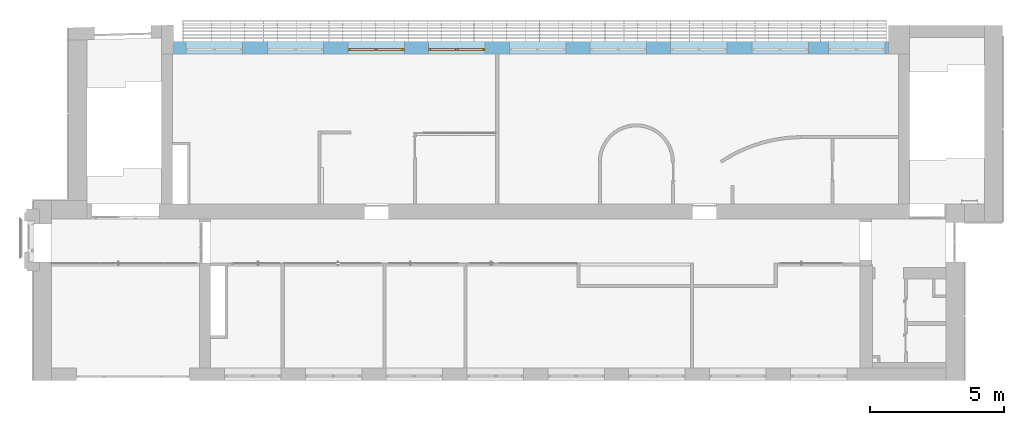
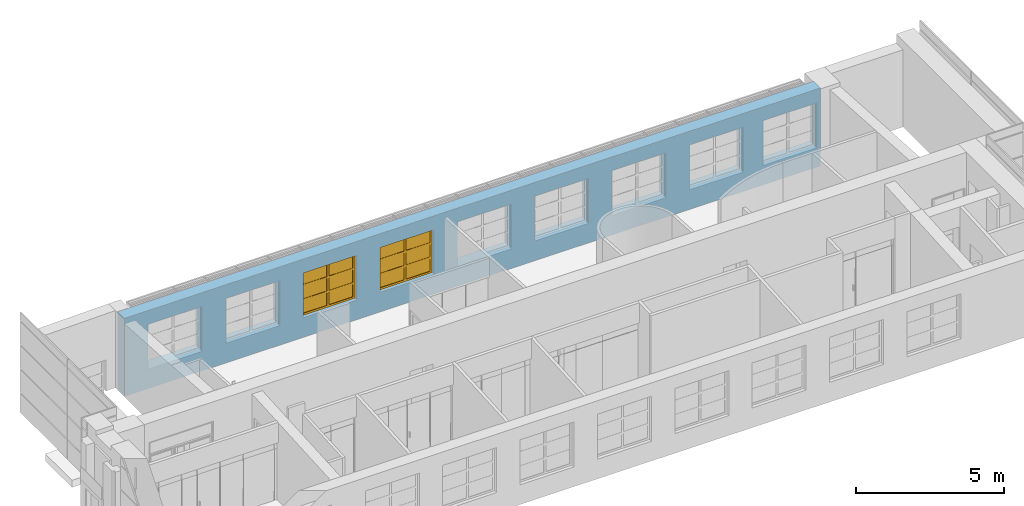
# One storey, part 35 of 46: 2 windows, 9 openings, plus 1 element that does not belong to this part.
"""IFC2X3 building model written with IfcOpenShell, lengths in millimetres."""

from ifc_helpers import new_model, entity, si_unit, converted_unit, derived_unit, direction, frame, frame_2d, origin, origin_2d_with_axis, place, context, subcontext, project, spatial, rectangle, extrude, face_set, surface_model, source, transform, mapped, material, material_list, layer, layer_set, layer_usage, type_object, type_shapes, element, fill, save


model = new_model("IFC2X3")

# Units and contexts
model_context = context("Model", 3, precision=0.01, world=origin(), true_north=direction((6.12303176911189e-17, 1.0)))
body_context = subcontext(model_context, "Body", "Model", "MODEL_VIEW")
ifc_project = project(units=[si_unit("LENGTHUNIT", "METRE", prefix="MILLI"), si_unit("AREAUNIT", "SQUARE_METRE"), si_unit("VOLUMEUNIT", "CUBIC_METRE"), converted_unit("PLANEANGLEUNIT", "DEGREE", entity("IfcRatioMeasure", 0.0174532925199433), si_unit("PLANEANGLEUNIT", "RADIAN"), dimensions=[0, 0, 0, 0, 0, 0, 0]), si_unit("MASSUNIT", "GRAM", prefix="KILO"), derived_unit("MASSDENSITYUNIT", [(si_unit("MASSUNIT", "GRAM", prefix="KILO"), 1), (si_unit("LENGTHUNIT", "METRE"), -3)]), si_unit("TIMEUNIT", "SECOND"), si_unit("FREQUENCYUNIT", "HERTZ"), si_unit("THERMODYNAMICTEMPERATUREUNIT", "DEGREE_CELSIUS"), derived_unit("THERMALTRANSMITTANCEUNIT", [(si_unit("MASSUNIT", "GRAM", prefix="KILO"), 1), (si_unit("THERMODYNAMICTEMPERATUREUNIT", "KELVIN"), -1), (si_unit("TIMEUNIT", "SECOND"), -3)]), derived_unit("VOLUMETRICFLOWRATEUNIT", [(si_unit("LENGTHUNIT", "METRE"), 3), (si_unit("TIMEUNIT", "SECOND"), -1)]), si_unit("ELECTRICCURRENTUNIT", "AMPERE"), si_unit("ELECTRICVOLTAGEUNIT", "VOLT"), si_unit("POWERUNIT", "WATT"), si_unit("FORCEUNIT", "NEWTON", prefix="KILO"), si_unit("ILLUMINANCEUNIT", "LUX"), si_unit("LUMINOUSFLUXUNIT", "LUMEN"), si_unit("LUMINOUSINTENSITYUNIT", "CANDELA"), derived_unit("USERDEFINED", [(si_unit("MASSUNIT", "GRAM", prefix="KILO"), -1), (si_unit("LENGTHUNIT", "METRE"), -2), (si_unit("TIMEUNIT", "SECOND"), 3), (si_unit("LUMINOUSFLUXUNIT", "LUMEN"), 1)]), derived_unit("LINEARVELOCITYUNIT", [(si_unit("LENGTHUNIT", "METRE"), 1), (si_unit("TIMEUNIT", "SECOND"), -1)]), si_unit("PRESSUREUNIT", "PASCAL"), derived_unit("USERDEFINED", [(si_unit("LENGTHUNIT", "METRE"), -2), (si_unit("MASSUNIT", "GRAM", prefix="KILO"), 1), (si_unit("TIMEUNIT", "SECOND"), -2)])], contexts=[model_context])

# Site, building, storey
site_placement = place(None, frame((-151.875543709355, 2715.0, 0.0)))
site = spatial("IfcSite", under=ifc_project, at=site_placement, Name="Surface", CompositionType="ELEMENT")
building_placement = place(site_placement, origin())
building = spatial("IfcBuilding", under=site, at=building_placement, CompositionType="ELEMENT")
storey_placement = place(building_placement, frame((0.0, 0.0, 10060.0)))
storey = spatial("IfcBuildingStorey", under=building, at=storey_placement, Name="4 korrus", CompositionType="ELEMENT", Elevation=10060.0000000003)

# Wall, openings, windows
ifc_material_1 = material(Name="Brick, Common")
ifc_layer_1 = layer(ifc_material_1, 440.0)
ifc_material_2 = material(Name="__Kips GN13_tava")
ifc_layer_2 = layer(ifc_material_2, 20.0)
ifc_layer_set = layer_set([ifc_layer_1, ifc_layer_2], Name="Basic Wall:VS-1")
ifc_layer_usage = layer_usage(ifc_layer_set, "AXIS2", "POSITIVE", -230.0)
wall_type = type_object("IfcWallType", Name="Basic Wall:VS-1", PredefinedType="STANDARD", material=ifc_layer_set)
wall_placement = place(storey_placement, frame((31602.6162682, 12380.0, 0.0), z_axis=(0.0, 0.0, 1.0), x_axis=(-1.0, 0.0, 0.0)))
wall = element("IfcWallStandardCase", 1, at=wall_placement, inside=storey, type_object=wall_type, material=ifc_layer_usage, Name="SEIN - 005", ObjectType="Basic Wall:VS-1", context=body_context, shape_type="SweptSolid", body=[
    extrude(rectangle(XDim=27061.7433388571, YDim=459.999999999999, at=frame_2d((13530.8716694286, 0.0), x_axis=(-1.0, 0.0))), origin(), (0.0, 0.0, 1.0), 3209.74134984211),
])
opening_1_placement = place(wall_placement, frame((31602.6162682, 12380.0, 0.0), z_axis=(0.0, 0.0, 1.0), x_axis=(-1.0, 0.0, 0.0)))
element("IfcOpeningElement", 2, at=opening_1_placement, cuts=wall, Name="SEIN - 005", ObjectType="Opening", context=body_context, shape_type="SweptSolid", body=[
    extrude(rectangle(XDim=1850.0, YDim=2100.0, at=frame_2d((0.0, -5.6843418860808e-13), x_axis=(1.0, 0.0))), frame((6512.84935535, 13077.9, 1725.0), z_axis=(0.0, -1.0, 0.0), x_axis=(0.0, 0.0, 1.0)), (0.0, 0.0, 1.0), 1393.8),
])
opening_2_placement = place(wall_placement, frame((31602.6162682, 12380.0, 0.0), z_axis=(0.0, 0.0, 1.0), x_axis=(-1.0, 0.0, 0.0)))
element("IfcOpeningElement", 3, at=opening_2_placement, cuts=wall, Name="SEIN - 005", ObjectType="Opening", context=body_context, shape_type="SweptSolid", body=[
    extrude(rectangle(XDim=1850.0, YDim=2100.0, at=frame_2d((0.0, -1.02318153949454e-12), x_axis=(1.0, 0.0))), frame((9532.84935535, 13077.9, 1725.0), z_axis=(0.0, -1.0, 0.0), x_axis=(0.0, 0.0, 1.0)), (0.0, 0.0, 1.0), 1393.8),
])
opening_3_placement = place(wall_placement, frame((31602.6162682, 12380.0, 0.0), z_axis=(0.0, 0.0, 1.0), x_axis=(-1.0, 0.0, 0.0)))
opening_3 = element("IfcOpeningElement", 4, at=opening_3_placement, cuts=wall, Name="SEIN - 005", ObjectType="Opening", context=body_context, shape_type="SweptSolid", body=[
    extrude(rectangle(XDim=1850.0, YDim=2100.0, at=origin_2d_with_axis()), frame((12532.84935535, 13077.9, 1725.0), z_axis=(0.0, -1.0, 0.0), x_axis=(0.0, 0.0, 1.0)), (0.0, 0.0, 1.0), 1393.8),
])
opening_4_placement = place(wall_placement, frame((31602.6162682, 12380.0, 0.0), z_axis=(0.0, 0.0, 1.0), x_axis=(-1.0, 0.0, 0.0)))
opening_4 = element("IfcOpeningElement", 5, at=opening_4_placement, cuts=wall, Name="SEIN - 005", ObjectType="Opening", context=body_context, shape_type="SweptSolid", body=[
    extrude(rectangle(XDim=1850.0, YDim=2100.0, at=origin_2d_with_axis()), frame((15532.84935531, 13077.9, 1725.0), z_axis=(0.0, -1.0, 0.0), x_axis=(0.0, 0.0, 1.0)), (0.0, 0.0, 1.0), 1393.8),
])
opening_5_placement = place(wall_placement, frame((31602.6162682, 12380.0, 0.0), z_axis=(0.0, 0.0, 1.0), x_axis=(-1.0, 0.0, 0.0)))
element("IfcOpeningElement", 6, at=opening_5_placement, cuts=wall, Name="SEIN - 005", ObjectType="Opening", context=body_context, shape_type="SweptSolid", body=[
    extrude(rectangle(XDim=1850.0, YDim=2100.0, at=origin_2d_with_axis()), frame((18542.84935531, 13077.9, 1725.0), z_axis=(0.0, -1.0, 0.0), x_axis=(0.0, 0.0, 1.0)), (0.0, 0.0, 1.0), 1393.8),
])
opening_6_placement = place(wall_placement, frame((31602.6162682, 12380.0, 0.0), z_axis=(0.0, 0.0, 1.0), x_axis=(-1.0, 0.0, 0.0)))
element("IfcOpeningElement", 7, at=opening_6_placement, cuts=wall, Name="SEIN - 005", ObjectType="Opening", context=body_context, shape_type="SweptSolid", body=[
    extrude(rectangle(XDim=1850.0, YDim=2100.0, at=origin_2d_with_axis()), frame((21543.05309771, 13077.9, 1725.0), z_axis=(0.0, -1.0, 0.0), x_axis=(0.0, 0.0, 1.0)), (0.0, 0.0, 1.0), 1393.8),
])
opening_7_placement = place(wall_placement, frame((31602.6162682, 12380.0, 0.0), z_axis=(0.0, 0.0, 1.0), x_axis=(-1.0, 0.0, 0.0)))
element("IfcOpeningElement", 8, at=opening_7_placement, cuts=wall, Name="SEIN - 005", ObjectType="Opening", context=body_context, shape_type="SweptSolid", body=[
    extrude(rectangle(XDim=1850.0, YDim=2100.0, at=origin_2d_with_axis()), frame((24543.05309771, 13077.9, 1725.0), z_axis=(0.0, -1.0, 0.0), x_axis=(0.0, 0.0, 1.0)), (0.0, 0.0, 1.0), 1393.8),
])
opening_8_placement = place(wall_placement, frame((31602.6162682, 12380.0, 0.0), z_axis=(0.0, 0.0, 1.0), x_axis=(-1.0, 0.0, 0.0)))
element("IfcOpeningElement", 9, at=opening_8_placement, cuts=wall, Name="SEIN - 005", ObjectType="Opening", context=body_context, shape_type="SweptSolid", body=[
    extrude(rectangle(XDim=1850.0, YDim=2100.0, at=frame_2d((0.0, 4.32009983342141e-12), x_axis=(1.0, 0.0))), frame((27563.05309771, 13077.9, 1725.0), z_axis=(0.0, -1.0, 0.0), x_axis=(0.0, 0.0, 1.0)), (0.0, 0.0, 1.0), 1393.8),
])
opening_9_placement = place(wall_placement, frame((31602.6162682, 12380.0, 0.0), z_axis=(0.0, 0.0, 1.0), x_axis=(-1.0, 0.0, 0.0)))
element("IfcOpeningElement", 10, at=opening_9_placement, cuts=wall, Name="SEIN - 005", ObjectType="Opening", context=body_context, shape_type="SweptSolid", body=[
    extrude(rectangle(XDim=1850.0, YDim=2100.0, at=origin_2d_with_axis()), frame((30412.57293081, 13077.9, 1725.0), z_axis=(0.0, -1.0, 0.0), x_axis=(0.0, 0.0, 1.0)), (0.0, 0.0, 1.0), 1393.8),
])
ifc_material_3 = material(Name="Paint - Titanium White")
ifc_material_4 = material(Name="Paint - Dark Gray")
ifc_material_5 = material(Name="Glass - Clear Fast")
ifc_material_list_1 = material_list([ifc_material_3, ifc_material_4, ifc_material_5])
ifc_material_list_2 = material_list([ifc_material_3, ifc_material_4, ifc_material_5])
window_style = type_object("IfcWindowStyle", Name="Aken_1850x2100", ConstructionType="NOTDEFINED", OperationType="DOUBLE_PANEL_VERTICAL", ParameterTakesPrecedence=False, Sizeable=False, material=ifc_material_list_2)
shared_shape = source(origin(), body_context, "Body", "SurfaceModel", [
    surface_model("IfcFaceBasedSurfaceModel", [(80.0, -665.9, 1770.0), (80.0, -620.9, 1770.0), (0.0, -620.9, 1770.0), (0.0, -665.9, 1770.0), (80.0, -665.9, 80.0), (80.0, -620.9, 80.0), (80.0, -620.9, 1770.0), (80.0, -665.9, 1770.0), (80.0, -620.9, 1770.0), (80.0, -620.9, 80.0), (0.0, -620.9, 80.0), (0.0, -620.9, 1770.0), (0.0, -665.9, 1770.0), (0.0, -620.9, 1770.0), (0.0, -620.9, 80.0), (0.0, -665.9, 80.0), (80.0, -665.9, 1770.0), (0.0, -665.9, 1770.0), (0.0, -665.9, 80.0), (80.0, -665.9, 80.0), (0.0, -665.9, 80.0), (0.0, -620.9, 80.0), (80.0, -620.9, 80.0), (80.0, -665.9, 80.0), (2020.0, -665.9, 80.0), (2020.0, -620.9, 80.0), (2100.0, -620.9, 80.0), (2100.0, -665.9, 80.0), (2020.0, -665.9, 1770.0), (2020.0, -620.9, 1770.0), (2020.0, -620.9, 80.0), (2020.0, -665.9, 80.0), (2020.0, -620.9, 80.0), (2020.0, -620.9, 1770.0), (2100.0, -620.9, 1770.0), (2100.0, -620.9, 80.0), (2100.0, -665.9, 80.0), (2100.0, -620.9, 80.0), (2100.0, -620.9, 1770.0), (2100.0, -665.9, 1770.0), (2020.0, -665.9, 80.0), (2100.0, -665.9, 80.0), (2100.0, -665.9, 1770.0), (2020.0, -665.9, 1770.0), (2100.0, -665.9, 1770.0), (2100.0, -620.9, 1770.0), (2020.0, -620.9, 1770.0), (2020.0, -665.9, 1770.0), (1010.0, -665.9, 80.0), (1010.0, -620.9, 80.0), (1090.0, -620.9, 80.0), (1090.0, -665.9, 80.0), (1010.0, -665.9, 1770.0), (1010.0, -620.9, 1770.0), (1010.0, -620.9, 80.0), (1010.0, -665.9, 80.0), (1010.0, -620.9, 80.0), (1010.0, -620.9, 1770.0), (1090.0, -620.9, 1770.0), (1090.0, -620.9, 80.0), (1090.0, -665.9, 80.0), (1090.0, -620.9, 80.0), (1090.0, -620.9, 1770.0), (1090.0, -665.9, 1770.0), (1010.0, -665.9, 80.0), (1090.0, -665.9, 80.0), (1090.0, -665.9, 1770.0), (1010.0, -665.9, 1770.0), (1090.0, -665.9, 1770.0), (1090.0, -620.9, 1770.0), (1010.0, -620.9, 1770.0), (1010.0, -665.9, 1770.0), (80.0, -665.9, 80.0), (80.0, -620.9, 80.0), (0.0, -620.9, 80.0), (0.0, -665.9, 80.0), (1010.0, -665.9, 80.0), (1010.0, -620.9, 80.0), (80.0, -620.9, 80.0), (80.0, -665.9, 80.0), (80.0, -620.9, 80.0), (1010.0, -620.9, 80.0), (1090.0, -620.9, 80.0), (2020.0, -620.9, 80.0), (2100.0, -620.9, 80.0), (2100.0, -620.9, 0.0), (0.0, -620.9, 0.0), (0.0, -620.9, 80.0), (0.0, -665.9, 80.0), (0.0, -620.9, 80.0), (0.0, -620.9, 0.0), (0.0, -665.9, 0.0), (80.0, -665.9, 80.0), (0.0, -665.9, 80.0), (0.0, -665.9, 0.0), (2100.0, -665.9, 0.0), (2100.0, -665.9, 80.0), (2020.0, -665.9, 80.0), (1090.0, -665.9, 80.0), (1010.0, -665.9, 80.0), (1090.0, -665.9, 80.0), (1090.0, -620.9, 80.0), (1010.0, -620.9, 80.0), (1010.0, -665.9, 80.0), (2020.0, -665.9, 80.0), (2020.0, -620.9, 80.0), (1090.0, -620.9, 80.0), (1090.0, -665.9, 80.0), (2100.0, -665.9, 80.0), (2100.0, -620.9, 80.0), (2020.0, -620.9, 80.0), (2020.0, -665.9, 80.0), (2100.0, -665.9, 0.0), (2100.0, -620.9, 0.0), (2100.0, -620.9, 80.0), (2100.0, -665.9, 80.0), (0.0, -665.9, 0.0), (0.0, -620.9, 0.0), (2100.0, -620.9, 0.0), (2100.0, -665.9, 0.0), (1010.0, -665.9, 1770.0), (1010.0, -620.9, 1770.0), (1090.0, -620.9, 1770.0), (1090.0, -665.9, 1770.0), (80.0, -665.9, 1770.0), (80.0, -620.9, 1770.0), (1010.0, -620.9, 1770.0), (1010.0, -665.9, 1770.0), (1010.0, -620.9, 1770.0), (80.0, -620.9, 1770.0), (0.0, -620.9, 1770.0), (0.0, -620.9, 1850.0), (2100.0, -620.9, 1850.0), (2100.0, -620.9, 1770.0), (2020.0, -620.9, 1770.0), (1090.0, -620.9, 1770.0), (1090.0, -665.9, 1770.0), (1090.0, -620.9, 1770.0), (2020.0, -620.9, 1770.0), (2020.0, -665.9, 1770.0), (1010.0, -665.9, 1770.0), (1090.0, -665.9, 1770.0), (2020.0, -665.9, 1770.0), (2100.0, -665.9, 1770.0), (2100.0, -665.9, 1850.0), (0.0, -665.9, 1850.0), (0.0, -665.9, 1770.0), (80.0, -665.9, 1770.0), (0.0, -665.9, 1770.0), (0.0, -620.9, 1770.0), (80.0, -620.9, 1770.0), (80.0, -665.9, 1770.0), (0.0, -665.9, 1850.0), (0.0, -620.9, 1850.0), (0.0, -620.9, 1770.0), (0.0, -665.9, 1770.0), (2100.0, -665.9, 1850.0), (2100.0, -620.9, 1850.0), (0.0, -620.9, 1850.0), (0.0, -665.9, 1850.0), (2100.0, -665.9, 1770.0), (2100.0, -620.9, 1770.0), (2100.0, -620.9, 1850.0), (2100.0, -665.9, 1850.0), (2020.0, -665.9, 1770.0), (2020.0, -620.9, 1770.0), (2100.0, -620.9, 1770.0), (2100.0, -665.9, 1770.0), (80.0, -640.9, 590.0), (80.0, -630.9, 590.0), (1010.0, -630.9, 590.0), (1010.0, -640.9, 590.0), (80.0, -640.9, 670.0), (80.0, -630.9, 670.0), (80.0, -630.9, 590.0), (80.0, -640.9, 590.0), (80.0, -630.9, 590.0), (80.0, -630.9, 670.0), (1010.0, -630.9, 670.0), (1010.0, -630.9, 590.0), (1010.0, -640.9, 590.0), (1010.0, -630.9, 590.0), (1010.0, -630.9, 670.0), (1010.0, -640.9, 670.0), (80.0, -640.9, 590.0), (1010.0, -640.9, 590.0), (1010.0, -640.9, 670.0), (80.0, -640.9, 670.0), (1010.0, -640.9, 670.0), (1010.0, -630.9, 670.0), (80.0, -630.9, 670.0), (80.0, -640.9, 670.0), (80.0, -640.9, 1180.0), (80.0, -630.9, 1180.0), (1010.0, -630.9, 1180.0), (1010.0, -640.9, 1180.0), (80.0, -640.9, 1260.0), (80.0, -630.9, 1260.0), (80.0, -630.9, 1180.0), (80.0, -640.9, 1180.0), (80.0, -630.9, 1180.0), (80.0, -630.9, 1260.0), (1010.0, -630.9, 1260.0), (1010.0, -630.9, 1180.0), (1010.0, -640.9, 1180.0), (1010.0, -630.9, 1180.0), (1010.0, -630.9, 1260.0), (1010.0, -640.9, 1260.0), (80.0, -640.9, 1180.0), (1010.0, -640.9, 1180.0), (1010.0, -640.9, 1260.0), (80.0, -640.9, 1260.0), (1010.0, -640.9, 1260.0), (1010.0, -630.9, 1260.0), (80.0, -630.9, 1260.0), (80.0, -640.9, 1260.0), (1090.0, -640.9, 590.0), (1090.0, -630.9, 590.0), (2020.0, -630.9, 590.0), (2020.0, -640.9, 590.0), (1090.0, -640.9, 670.0), (1090.0, -630.9, 670.0), (1090.0, -630.9, 590.0), (1090.0, -640.9, 590.0), (1090.0, -630.9, 590.0), (1090.0, -630.9, 670.0), (2020.0, -630.9, 670.0), (2020.0, -630.9, 590.0), (2020.0, -640.9, 590.0), (2020.0, -630.9, 590.0), (2020.0, -630.9, 670.0), (2020.0, -640.9, 670.0), (1090.0, -640.9, 590.0), (2020.0, -640.9, 590.0), (2020.0, -640.9, 670.0), (1090.0, -640.9, 670.0), (2020.0, -640.9, 670.0), (2020.0, -630.9, 670.0), (1090.0, -630.9, 670.0), (1090.0, -640.9, 670.0), (1090.0, -640.9, 1180.0), (1090.0, -630.9, 1180.0), (2020.0, -630.9, 1180.0), (2020.0, -640.9, 1180.0), (1090.0, -640.9, 1260.0), (1090.0, -630.9, 1260.0), (1090.0, -630.9, 1180.0), (1090.0, -640.9, 1180.0), (1090.0, -630.9, 1180.0), (1090.0, -630.9, 1260.0), (2020.0, -630.9, 1260.0), (2020.0, -630.9, 1180.0), (2020.0, -640.9, 1180.0), (2020.0, -630.9, 1180.0), (2020.0, -630.9, 1260.0), (2020.0, -640.9, 1260.0), (1090.0, -640.9, 1180.0), (2020.0, -640.9, 1180.0), (2020.0, -640.9, 1260.0), (1090.0, -640.9, 1260.0), (2020.0, -640.9, 1260.0), (2020.0, -630.9, 1260.0), (1090.0, -630.9, 1260.0), (1090.0, -640.9, 1260.0)], [face_set([[[0, 1, 2, 3]]]), face_set([[[4, 5, 6, 7]]]), face_set([[[8, 9, 10, 11]]]), face_set([[[12, 13, 14, 15]]]), face_set([[[16, 17, 18, 19]]]), face_set([[[20, 21, 22, 23]]]), face_set([[[24, 25, 26, 27]]]), face_set([[[28, 29, 30, 31]]]), face_set([[[32, 33, 34, 35]]]), face_set([[[36, 37, 38, 39]]]), face_set([[[40, 41, 42, 43]]]), face_set([[[44, 45, 46, 47]]]), face_set([[[48, 49, 50, 51]]]), face_set([[[52, 53, 54, 55]]]), face_set([[[56, 57, 58, 59]]]), face_set([[[60, 61, 62, 63]]]), face_set([[[64, 65, 66, 67]]]), face_set([[[68, 69, 70, 71]]]), face_set([[[72, 73, 74, 75]]]), face_set([[[76, 77, 78, 79]]]), face_set([[[80, 81, 82, 83, 84, 85, 86, 87]]]), face_set([[[88, 89, 90, 91]]]), face_set([[[92, 93, 94, 95, 96, 97, 98, 99]]]), face_set([[[100, 101, 102, 103]]]), face_set([[[104, 105, 106, 107]]]), face_set([[[108, 109, 110, 111]]]), face_set([[[112, 113, 114, 115]]]), face_set([[[116, 117, 118, 119]]]), face_set([[[120, 121, 122, 123]]]), face_set([[[124, 125, 126, 127]]]), face_set([[[128, 129, 130, 131, 132, 133, 134, 135]]]), face_set([[[136, 137, 138, 139]]]), face_set([[[140, 141, 142, 143, 144, 145, 146, 147]]]), face_set([[[148, 149, 150, 151]]]), face_set([[[152, 153, 154, 155]]]), face_set([[[156, 157, 158, 159]]]), face_set([[[160, 161, 162, 163]]]), face_set([[[164, 165, 166, 167]]]), face_set([[[168, 169, 170, 171]]]), face_set([[[172, 173, 174, 175]]]), face_set([[[176, 177, 178, 179]]]), face_set([[[180, 181, 182, 183]]]), face_set([[[184, 185, 186, 187]]]), face_set([[[188, 189, 190, 191]]]), face_set([[[192, 193, 194, 195]]]), face_set([[[196, 197, 198, 199]]]), face_set([[[200, 201, 202, 203]]]), face_set([[[204, 205, 206, 207]]]), face_set([[[208, 209, 210, 211]]]), face_set([[[212, 213, 214, 215]]]), face_set([[[216, 217, 218, 219]]]), face_set([[[220, 221, 222, 223]]]), face_set([[[224, 225, 226, 227]]]), face_set([[[228, 229, 230, 231]]]), face_set([[[232, 233, 234, 235]]]), face_set([[[236, 237, 238, 239]]]), face_set([[[240, 241, 242, 243]]]), face_set([[[244, 245, 246, 247]]]), face_set([[[248, 249, 250, 251]]]), face_set([[[252, 253, 254, 255]]]), face_set([[[256, 257, 258, 259]]]), face_set([[[260, 261, 262, 263]]])]),
    surface_model("IfcFaceBasedSurfaceModel", [(80.0, -620.9, 1770.0), (80.0, -595.9, 1770.0), (0.0, -595.9, 1770.0), (0.0, -620.9, 1770.0), (80.0, -620.9, 80.0), (80.0, -595.9, 80.0), (80.0, -595.9, 1770.0), (80.0, -620.9, 1770.0), (80.0, -595.9, 1770.0), (80.0, -595.9, 80.0), (0.0, -595.9, 80.0), (0.0, -595.9, 1770.0), (0.0, -620.9, 1770.0), (0.0, -595.9, 1770.0), (0.0, -595.9, 80.0), (0.0, -620.9, 80.0), (80.0, -620.9, 1770.0), (0.0, -620.9, 1770.0), (0.0, -620.9, 80.0), (80.0, -620.9, 80.0), (0.0, -620.9, 80.0), (0.0, -595.9, 80.0), (80.0, -595.9, 80.0), (80.0, -620.9, 80.0), (2020.0, -620.9, 80.0), (2020.0, -595.9, 80.0), (2100.0, -595.9, 80.0), (2100.0, -620.9, 80.0), (2020.0, -620.9, 1770.0), (2020.0, -595.9, 1770.0), (2020.0, -595.9, 80.0), (2020.0, -620.9, 80.0), (2020.0, -595.9, 80.0), (2020.0, -595.9, 1770.0), (2100.0, -595.9, 1770.0), (2100.0, -595.9, 80.0), (2100.0, -620.9, 80.0), (2100.0, -595.9, 80.0), (2100.0, -595.9, 1770.0), (2100.0, -620.9, 1770.0), (2020.0, -620.9, 80.0), (2100.0, -620.9, 80.0), (2100.0, -620.9, 1770.0), (2020.0, -620.9, 1770.0), (2100.0, -620.9, 1770.0), (2100.0, -595.9, 1770.0), (2020.0, -595.9, 1770.0), (2020.0, -620.9, 1770.0), (1010.0, -620.9, 80.0), (1010.0, -595.9, 80.0), (1090.0, -595.9, 80.0), (1090.0, -620.9, 80.0), (1010.0, -620.9, 1770.0), (1010.0, -595.9, 1770.0), (1010.0, -595.9, 80.0), (1010.0, -620.9, 80.0), (1010.0, -595.9, 80.0), (1010.0, -595.9, 1770.0), (1090.0, -595.9, 1770.0), (1090.0, -595.9, 80.0), (1090.0, -620.9, 80.0), (1090.0, -595.9, 80.0), (1090.0, -595.9, 1770.0), (1090.0, -620.9, 1770.0), (1010.0, -620.9, 80.0), (1090.0, -620.9, 80.0), (1090.0, -620.9, 1770.0), (1010.0, -620.9, 1770.0), (1090.0, -620.9, 1770.0), (1090.0, -595.9, 1770.0), (1010.0, -595.9, 1770.0), (1010.0, -620.9, 1770.0), (80.0, -620.9, 80.0), (80.0, -595.9, 80.0), (0.0, -595.9, 80.0), (0.0, -620.9, 80.0), (1010.0, -620.9, 80.0), (1010.0, -595.9, 80.0), (80.0, -595.9, 80.0), (80.0, -620.9, 80.0), (80.0, -595.9, 80.0), (1010.0, -595.9, 80.0), (1090.0, -595.9, 80.0), (2020.0, -595.9, 80.0), (2100.0, -595.9, 80.0), (2100.0, -595.9, 0.0), (0.0, -595.9, 0.0), (0.0, -595.9, 80.0), (0.0, -620.9, 80.0), (0.0, -595.9, 80.0), (0.0, -595.9, 0.0), (0.0, -620.9, 0.0), (80.0, -620.9, 80.0), (0.0, -620.9, 80.0), (0.0, -620.9, 0.0), (2100.0, -620.9, 0.0), (2100.0, -620.9, 80.0), (2020.0, -620.9, 80.0), (1090.0, -620.9, 80.0), (1010.0, -620.9, 80.0), (1090.0, -620.9, 80.0), (1090.0, -595.9, 80.0), (1010.0, -595.9, 80.0), (1010.0, -620.9, 80.0), (2020.0, -620.9, 80.0), (2020.0, -595.9, 80.0), (1090.0, -595.9, 80.0), (1090.0, -620.9, 80.0), (2100.0, -620.9, 80.0), (2100.0, -595.9, 80.0), (2020.0, -595.9, 80.0), (2020.0, -620.9, 80.0), (2100.0, -620.9, 0.0), (2100.0, -595.9, 0.0), (2100.0, -595.9, 80.0), (2100.0, -620.9, 80.0), (0.0, -620.9, 0.0), (0.0, -595.9, 0.0), (2100.0, -595.9, 0.0), (2100.0, -620.9, 0.0), (1010.0, -620.9, 1770.0), (1010.0, -595.9, 1770.0), (1090.0, -595.9, 1770.0), (1090.0, -620.9, 1770.0), (80.0, -620.9, 1770.0), (80.0, -595.9, 1770.0), (1010.0, -595.9, 1770.0), (1010.0, -620.9, 1770.0), (1010.0, -595.9, 1770.0), (80.0, -595.9, 1770.0), (0.0, -595.9, 1770.0), (0.0, -595.9, 1850.0), (2100.0, -595.9, 1850.0), (2100.0, -595.9, 1770.0), (2020.0, -595.9, 1770.0), (1090.0, -595.9, 1770.0), (1090.0, -620.9, 1770.0), (1090.0, -595.9, 1770.0), (2020.0, -595.9, 1770.0), (2020.0, -620.9, 1770.0), (1010.0, -620.9, 1770.0), (1090.0, -620.9, 1770.0), (2020.0, -620.9, 1770.0), (2100.0, -620.9, 1770.0), (2100.0, -620.9, 1850.0), (0.0, -620.9, 1850.0), (0.0, -620.9, 1770.0), (80.0, -620.9, 1770.0), (0.0, -620.9, 1770.0), (0.0, -595.9, 1770.0), (80.0, -595.9, 1770.0), (80.0, -620.9, 1770.0), (0.0, -620.9, 1850.0), (0.0, -595.9, 1850.0), (0.0, -595.9, 1770.0), (0.0, -620.9, 1770.0), (2100.0, -620.9, 1850.0), (2100.0, -595.9, 1850.0), (0.0, -595.9, 1850.0), (0.0, -620.9, 1850.0), (2100.0, -620.9, 1770.0), (2100.0, -595.9, 1770.0), (2100.0, -595.9, 1850.0), (2100.0, -620.9, 1850.0), (2020.0, -620.9, 1770.0), (2020.0, -595.9, 1770.0), (2100.0, -595.9, 1770.0), (2100.0, -620.9, 1770.0), (80.0, -630.9, 590.0), (80.0, -600.9, 590.0), (1010.0, -600.9, 590.0), (1010.0, -630.9, 590.0), (80.0, -630.9, 670.0), (80.0, -600.9, 670.0), (80.0, -600.9, 590.0), (80.0, -630.9, 590.0), (80.0, -600.9, 590.0), (80.0, -600.9, 670.0), (1010.0, -600.9, 670.0), (1010.0, -600.9, 590.0), (1010.0, -630.9, 590.0), (1010.0, -600.9, 590.0), (1010.0, -600.9, 670.0), (1010.0, -630.9, 670.0), (80.0, -630.9, 590.0), (1010.0, -630.9, 590.0), (1010.0, -630.9, 670.0), (80.0, -630.9, 670.0), (1010.0, -630.9, 670.0), (1010.0, -600.9, 670.0), (80.0, -600.9, 670.0), (80.0, -630.9, 670.0), (80.0, -630.9, 1180.0), (80.0, -600.9, 1180.0), (1010.0, -600.9, 1180.0), (1010.0, -630.9, 1180.0), (80.0, -630.9, 1260.0), (80.0, -600.9, 1260.0), (80.0, -600.9, 1180.0), (80.0, -630.9, 1180.0), (80.0, -600.9, 1180.0), (80.0, -600.9, 1260.0), (1010.0, -600.9, 1260.0), (1010.0, -600.9, 1180.0), (1010.0, -630.9, 1180.0), (1010.0, -600.9, 1180.0), (1010.0, -600.9, 1260.0), (1010.0, -630.9, 1260.0), (80.0, -630.9, 1180.0), (1010.0, -630.9, 1180.0), (1010.0, -630.9, 1260.0), (80.0, -630.9, 1260.0), (1010.0, -630.9, 1260.0), (1010.0, -600.9, 1260.0), (80.0, -600.9, 1260.0), (80.0, -630.9, 1260.0), (1090.0, -630.9, 590.0), (1090.0, -600.9, 590.0), (2020.0, -600.9, 590.0), (2020.0, -630.9, 590.0), (1090.0, -630.9, 670.0), (1090.0, -600.9, 670.0), (1090.0, -600.9, 590.0), (1090.0, -630.9, 590.0), (1090.0, -600.9, 590.0), (1090.0, -600.9, 670.0), (2020.0, -600.9, 670.0), (2020.0, -600.9, 590.0), (2020.0, -630.9, 590.0), (2020.0, -600.9, 590.0), (2020.0, -600.9, 670.0), (2020.0, -630.9, 670.0), (1090.0, -630.9, 590.0), (2020.0, -630.9, 590.0), (2020.0, -630.9, 670.0), (1090.0, -630.9, 670.0), (2020.0, -630.9, 670.0), (2020.0, -600.9, 670.0), (1090.0, -600.9, 670.0), (1090.0, -630.9, 670.0), (1090.0, -630.9, 1180.0), (1090.0, -600.9, 1180.0), (2020.0, -600.9, 1180.0), (2020.0, -630.9, 1180.0), (1090.0, -630.9, 1260.0), (1090.0, -600.9, 1260.0), (1090.0, -600.9, 1180.0), (1090.0, -630.9, 1180.0), (1090.0, -600.9, 1180.0), (1090.0, -600.9, 1260.0), (2020.0, -600.9, 1260.0), (2020.0, -600.9, 1180.0), (2020.0, -630.9, 1180.0), (2020.0, -600.9, 1180.0), (2020.0, -600.9, 1260.0), (2020.0, -630.9, 1260.0), (1090.0, -630.9, 1180.0), (2020.0, -630.9, 1180.0), (2020.0, -630.9, 1260.0), (1090.0, -630.9, 1260.0), (2020.0, -630.9, 1260.0), (2020.0, -600.9, 1260.0), (1090.0, -600.9, 1260.0), (1090.0, -630.9, 1260.0)], [face_set([[[0, 1, 2, 3]]]), face_set([[[4, 5, 6, 7]]]), face_set([[[8, 9, 10, 11]]]), face_set([[[12, 13, 14, 15]]]), face_set([[[16, 17, 18, 19]]]), face_set([[[20, 21, 22, 23]]]), face_set([[[24, 25, 26, 27]]]), face_set([[[28, 29, 30, 31]]]), face_set([[[32, 33, 34, 35]]]), face_set([[[36, 37, 38, 39]]]), face_set([[[40, 41, 42, 43]]]), face_set([[[44, 45, 46, 47]]]), face_set([[[48, 49, 50, 51]]]), face_set([[[52, 53, 54, 55]]]), face_set([[[56, 57, 58, 59]]]), face_set([[[60, 61, 62, 63]]]), face_set([[[64, 65, 66, 67]]]), face_set([[[68, 69, 70, 71]]]), face_set([[[72, 73, 74, 75]]]), face_set([[[76, 77, 78, 79]]]), face_set([[[80, 81, 82, 83, 84, 85, 86, 87]]]), face_set([[[88, 89, 90, 91]]]), face_set([[[92, 93, 94, 95, 96, 97, 98, 99]]]), face_set([[[100, 101, 102, 103]]]), face_set([[[104, 105, 106, 107]]]), face_set([[[108, 109, 110, 111]]]), face_set([[[112, 113, 114, 115]]]), face_set([[[116, 117, 118, 119]]]), face_set([[[120, 121, 122, 123]]]), face_set([[[124, 125, 126, 127]]]), face_set([[[128, 129, 130, 131, 132, 133, 134, 135]]]), face_set([[[136, 137, 138, 139]]]), face_set([[[140, 141, 142, 143, 144, 145, 146, 147]]]), face_set([[[148, 149, 150, 151]]]), face_set([[[152, 153, 154, 155]]]), face_set([[[156, 157, 158, 159]]]), face_set([[[160, 161, 162, 163]]]), face_set([[[164, 165, 166, 167]]]), face_set([[[168, 169, 170, 171]]]), face_set([[[172, 173, 174, 175]]]), face_set([[[176, 177, 178, 179]]]), face_set([[[180, 181, 182, 183]]]), face_set([[[184, 185, 186, 187]]]), face_set([[[188, 189, 190, 191]]]), face_set([[[192, 193, 194, 195]]]), face_set([[[196, 197, 198, 199]]]), face_set([[[200, 201, 202, 203]]]), face_set([[[204, 205, 206, 207]]]), face_set([[[208, 209, 210, 211]]]), face_set([[[212, 213, 214, 215]]]), face_set([[[216, 217, 218, 219]]]), face_set([[[220, 221, 222, 223]]]), face_set([[[224, 225, 226, 227]]]), face_set([[[228, 229, 230, 231]]]), face_set([[[232, 233, 234, 235]]]), face_set([[[236, 237, 238, 239]]]), face_set([[[240, 241, 242, 243]]]), face_set([[[244, 245, 246, 247]]]), face_set([[[248, 249, 250, 251]]]), face_set([[[252, 253, 254, 255]]]), face_set([[[256, 257, 258, 259]]]), face_set([[[260, 261, 262, 263]]])]),
    surface_model("IfcFaceBasedSurfaceModel", [(1010.0, -630.9, 80.0), (1010.0, -630.9, 590.0), (80.0, -630.9, 590.0), (80.0, -630.9, 80.0), (1010.0, -610.9, 80.0), (80.0, -610.9, 80.0), (80.0, -610.9, 590.0), (1010.0, -610.9, 590.0), (1010.0, -630.9, 670.0), (1010.0, -630.9, 1180.0), (80.0, -630.9, 1180.0), (80.0, -630.9, 670.0), (1010.0, -610.9, 670.0), (80.0, -610.9, 670.0), (80.0, -610.9, 1180.0), (1010.0, -610.9, 1180.0), (1010.0, -630.9, 1260.0), (1010.0, -630.9, 1770.0), (80.0, -630.9, 1770.0), (80.0, -630.9, 1260.0), (1010.0, -610.9, 1260.0), (80.0, -610.9, 1260.0), (80.0, -610.9, 1770.0), (1010.0, -610.9, 1770.0), (2020.0, -630.9, 80.0), (2020.0, -630.9, 590.0), (1090.0, -630.9, 590.0), (1090.0, -630.9, 80.0), (2020.0, -610.9, 80.0), (1090.0, -610.9, 80.0), (1090.0, -610.9, 590.0), (2020.0, -610.9, 590.0), (2020.0, -630.9, 670.0), (2020.0, -630.9, 1180.0), (1090.0, -630.9, 1180.0), (1090.0, -630.9, 670.0), (2020.0, -610.9, 670.0), (1090.0, -610.9, 670.0), (1090.0, -610.9, 1180.0), (2020.0, -610.9, 1180.0), (2020.0, -630.9, 1260.0), (2020.0, -630.9, 1770.0), (1090.0, -630.9, 1770.0), (1090.0, -630.9, 1260.0), (2020.0, -610.9, 1260.0), (1090.0, -610.9, 1260.0), (1090.0, -610.9, 1770.0), (2020.0, -610.9, 1770.0)], [face_set([[[0, 1, 2, 3]]]), face_set([[[4, 5, 6, 7]]]), face_set([[[8, 9, 10, 11]]]), face_set([[[12, 13, 14, 15]]]), face_set([[[16, 17, 18, 19]]]), face_set([[[20, 21, 22, 23]]]), face_set([[[24, 25, 26, 27]]]), face_set([[[28, 29, 30, 31]]]), face_set([[[32, 33, 34, 35]]]), face_set([[[36, 37, 38, 39]]]), face_set([[[40, 41, 42, 43]]]), face_set([[[44, 45, 46, 47]]])]),
])
type_shapes(window_style, [shared_shape])
window_1_placement = place(opening_3_placement, frame((13582.84935535, 11684.1, 800.0), z_axis=(0.0, 0.0, 1.0), x_axis=(-1.0, 0.0, 0.0)))
window_1 = element("IfcWindow", 11, at=window_1_placement, inside=storey, type_object=window_style, material=ifc_material_list_1, Name="Aken_1850x2100:Aken_1850x2100", ObjectType="Aken_1850x2100", OverallHeight=2100.0, OverallWidth=1850.0, context=body_context, shape_type="MappedRepresentation", body=[
    mapped(shared_shape, transform((0.0, 0.0, 0.0), scale=1.0)),
])
fill(opening_3, window_1)
ifc_material_list_3 = material_list([ifc_material_3, ifc_material_4, ifc_material_5])
window_2_placement = place(opening_4_placement, frame((16582.84935531, 11684.1, 800.0), z_axis=(0.0, 0.0, 1.0), x_axis=(-1.0, 0.0, 0.0)))
window_2 = element("IfcWindow", 12, at=window_2_placement, inside=storey, type_object=window_style, material=ifc_material_list_3, Name="Aken_1850x2100:Aken_1850x2100", ObjectType="Aken_1850x2100", OverallHeight=2100.0, OverallWidth=1850.0, context=body_context, shape_type="MappedRepresentation", body=[
    mapped(shared_shape, transform((0.0, 0.0, 0.0), scale=1.0)),
])
fill(opening_4, window_2)

save(model, "model.ifc")
